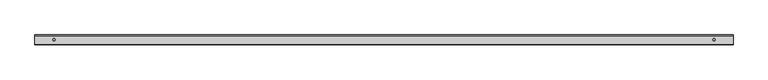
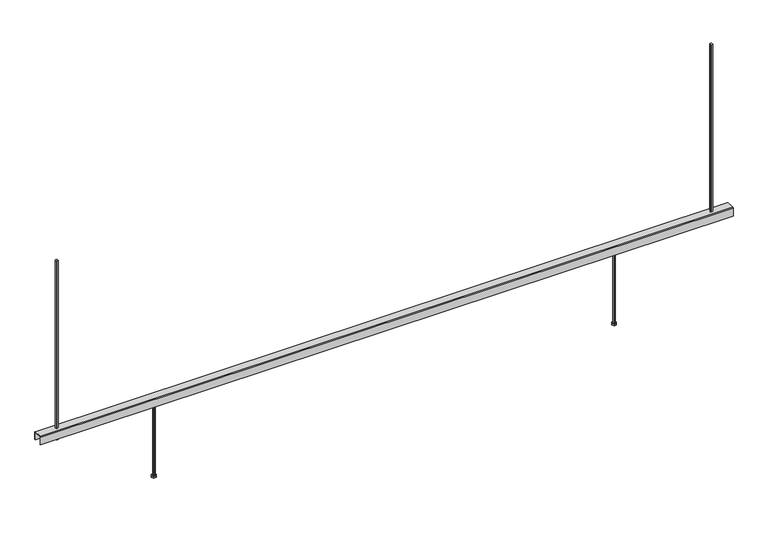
"""IFC4 building model written with IfcOpenShell, lengths in millimetres: proxy geometry, Beared-Hanger : BearedHanger."""

from ifc_helpers import new_model, si_unit, frame, origin, place, context, project, spatial, polyline, outline, extrude, source, transform, mapped, element, save


def mechanical_equipment_cf5eef75(model_context):
    return source(origin(), model_context, "Body", "SweptSolid", [
        extrude(outline(polyline([(942.2262898, -17.3962402), (942.2262898, 16.7883301), (972.0431843, 16.7883301), (972.0431843, -17.3962402), (942.2262898, -17.3962402)])), frame((0.0, 0.0, -772.7359535), z_axis=(0.0, 0.0, 1.0), x_axis=(1.0, 0.0, 0.0)), (0.0, 0.0, 1.0), 10.0),
        extrude(outline(polyline([(947.134737, 0.0), (952.134737, 8.659668), (962.134737, 8.659668), (967.134737, 0.0), (962.134737, -8.659668), (952.134737, -8.659668), (947.134737, 0.0)])), frame((0.0, 0.0, -1093.0975868), z_axis=(0.0, 0.0, 1.0), x_axis=(1.0, 0.0, 0.0)), (0.0, 0.0, 1.0), 6.6101074),
        extrude(outline(polyline([(957.134737, 5.0), (960.6698933, 3.5351562), (962.134737, 0.0), (960.6698933, -3.5351563), (957.134737, -5.0), (953.5995808, -3.5351563), (952.1341267, 0.0), (953.5995808, 3.5351562), (957.134737, 5.0)])), frame((0.0, 0.0, -1086.4874794), z_axis=(0.0, 0.0, 1.0), x_axis=(1.0, 0.0, 0.0)), (0.0, 0.0, 1.0), 313.7515259),
        extrude(outline(polyline([(-967.134737, 0.0), (-962.134737, 8.659668), (-952.134737, 8.659668), (-947.134737, 0.0), (-952.134737, -8.659668), (-962.134737, -8.659668), (-967.134737, 0.0)])), frame((0.0, 0.0, -1093.0975868), z_axis=(0.0, 0.0, 1.0), x_axis=(1.0, 0.0, 0.0)), (0.0, 0.0, 1.0), 6.6101074),
        extrude(outline(polyline([(-942.2262898, 16.7883301), (-942.2262898, -17.3962402), (-972.0431843, -17.3962402), (-972.0431843, 16.7883301), (-942.2262898, 16.7883301)])), frame((0.0, 0.0, -772.7359535), z_axis=(0.0, 0.0, 1.0), x_axis=(1.0, 0.0, 0.0)), (0.0, 0.0, 1.0), 10.0),
        extrude(outline(polyline([(-957.134737, 5.0), (-953.5995808, 3.5351562), (-952.134737, 0.0), (-953.5995808, -3.5351563), (-957.134737, -5.0), (-960.6698933, -3.5351563), (-962.1353474, 0.0), (-960.6698933, 3.5351562), (-957.134737, 5.0)])), frame((0.0, 0.0, -1086.4874794), z_axis=(0.0, 0.0, 1.0), x_axis=(1.0, 0.0, 0.0)), (0.0, 0.0, 1.0), 313.7515259),
        extrude(outline(polyline([(1346.7508233, -17.3962402), (1346.7508233, 16.7883301), (1376.5677179, 16.7883301), (1376.5677179, -17.3962402), (1346.7508233, -17.3962402)])), frame((0.0, 0.0, -772.7359535), z_axis=(0.0, 0.0, 1.0), x_axis=(1.0, 0.0, 0.0)), (0.0, 0.0, 1.0), 10.0),
        extrude(outline(polyline([(1361.6592706, 5.0), (1365.1944268, 3.5351562), (1366.6598809, 0.0), (1365.1944268, -3.5351563), (1361.6592706, -5.0), (1358.1241143, -3.5351563), (1356.6592706, 0.0), (1358.1241143, 3.5351562), (1361.6592706, 5.0)])), frame((0.0, 0.0, -786.3205482), z_axis=(0.0, 0.0, 1.0), x_axis=(1.0, 0.0, 0.0)), (0.0, 0.0, 1.0), 786.3205482),
        extrude(outline(polyline([(-1346.7508233, 16.7883301), (-1346.7508233, -17.3962402), (-1376.5677179, -17.3962402), (-1376.5677179, 16.7883301), (-1346.7508233, 16.7883301)])), frame((0.0, 0.0, -772.7359535), z_axis=(0.0, 0.0, 1.0), x_axis=(1.0, 0.0, 0.0)), (0.0, 0.0, 1.0), 10.0),
        extrude(outline(polyline([(-1361.6592706, 5.0), (-1358.1241143, 3.5351563), (-1356.6592706, 0.0), (-1358.1241143, -3.5351562), (-1361.6592706, -5.0), (-1365.1944268, -3.5351562), (-1366.6598809, 0.0), (-1365.1944268, 3.5351563), (-1361.6592706, 5.0)])), frame((0.0, 0.0, -786.3205482), z_axis=(0.0, 0.0, 1.0), x_axis=(1.0, 0.0, 0.0)), (0.0, 0.0, 1.0), 786.3205482),
        extrude(outline(polyline([(-17.8259277, -736.3205482), (17.1740723, -736.3205482), (19.6740723, -738.820243), (19.6740723, -772.7359535), (16.7883301, -772.7359535), (16.7883301, -739.3204261), (-17.3962402, -739.3204261), (-17.3962402, -772.7359535), (-20.3259277, -772.7359535), (-20.3259277, -738.820243), (-17.8259277, -736.3205482)])), frame((-1440.8398332, 0.0, 0.0), z_axis=(1.0, 0.0, 0.0), x_axis=(0.0, 1.0, 0.0)), (0.0, 0.0, 1.0), 2881.6796665),
    ])


if __name__ == "__main__":
    model = new_model("IFC4")
    model_context = context("Model", 3, world=origin())
    ifc_project = project(units=[si_unit("LENGTHUNIT", "METRE", prefix="MILLI")], contexts=[model_context])
    site = spatial("IfcSite", under=ifc_project)
    building = spatial("IfcBuilding", under=site)
    placement = place(None, origin())
    mechanical_equipment_shape = mechanical_equipment_cf5eef75(model_context)
    element("IfcBuildingElementProxy", 1, Name="Beared-Hanger : BearedHanger", ObjectType="Beared-Hanger : BearedHanger", at=placement, inside=building, context=model_context, shape_type="MappedRepresentation", body=[
        mapped(mechanical_equipment_shape, transform((0.0, 0.0, 0.0), x_axis=(1.0, 0.0, 0.0), y_axis=(0.0, 1.0, 0.0), z_axis=(0.0, 0.0, 1.0))),
    ])
    save(model, "model.ifc")
